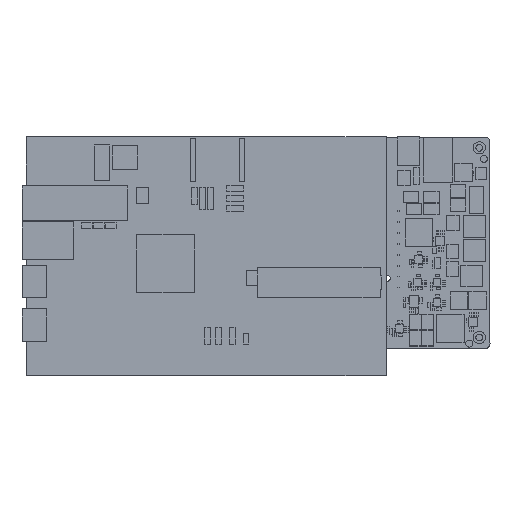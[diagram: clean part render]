
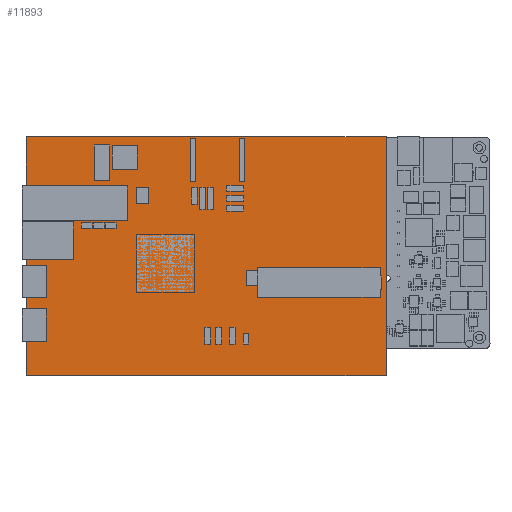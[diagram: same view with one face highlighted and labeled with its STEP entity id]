
A CAD part, top view. The second image highlights one B-rep face of the part: STEP entity #11893.
In plain terms, the highlighted planar face has unit normal (0, 0, 1).
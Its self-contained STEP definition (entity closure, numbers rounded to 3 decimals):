
#9405=FACE_OUTER_BOUND($,#10532,.F.);
#10532=EDGE_LOOP($,(#19278,#19279,#19280,#19281));
#11066=PLANE($,#14054);
#11893=ADVANCED_FACE($,(#9405),#11066,.T.);
#14054=AXIS2_PLACEMENT_3D($,#36444,#29941,$);
#19278=ORIENTED_EDGE($,*,*,#22247,.T.);
#19279=ORIENTED_EDGE($,*,*,#22248,.T.);
#19280=ORIENTED_EDGE($,*,*,#22249,.T.);
#19281=ORIENTED_EDGE($,*,*,#22250,.T.);
#22247=EDGE_CURVE($,#27493,#27494,#25517,.T.);
#22248=EDGE_CURVE($,#27494,#27495,#25518,.T.);
#22249=EDGE_CURVE($,#27495,#27496,#25519,.T.);
#22250=EDGE_CURVE($,#27496,#27493,#25520,.T.);
#23892=VECTOR($,#30933,111.278);
#23893=VECTOR($,#30934,167.678);
#23894=VECTOR($,#30935,111.278);
#23895=VECTOR($,#30936,167.678);
#25517=LINE($,#36443,#23892);
#25518=LINE($,#36444,#23893);
#25519=LINE($,#36445,#23894);
#25520=LINE($,#36446,#23895);
#27493=VERTEX_POINT($,#36443);
#27494=VERTEX_POINT($,#36444);
#27495=VERTEX_POINT($,#36445);
#27496=VERTEX_POINT($,#36446);
#29941=DIRECTION($,(0.,0.,1.));
#30933=DIRECTION($,(0.,1.,0.));
#30934=DIRECTION($,(1.,0.,0.));
#30935=DIRECTION($,(0.,-1.,0.));
#30936=DIRECTION($,(-1.,0.,0.));
#36443=CARTESIAN_POINT('',(-57.214,-4.564,3.81));
#36444=CARTESIAN_POINT('',(-57.214,106.714,3.81));
#36445=CARTESIAN_POINT('',(110.464,106.714,3.81));
#36446=CARTESIAN_POINT('',(110.464,-4.564,3.81));
